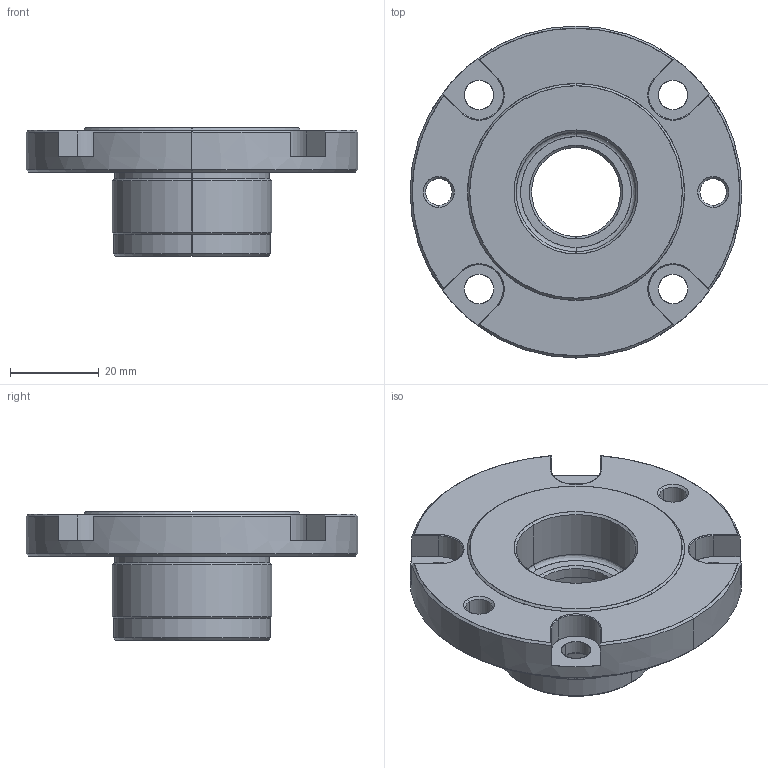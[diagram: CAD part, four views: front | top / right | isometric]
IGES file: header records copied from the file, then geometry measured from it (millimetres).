
Start section: SolidWorks IGES file using analytic representation for surfaces
Global section: file name: X:\11_SW2020-Inv2020\00_全2021-11新製品まで\a\AMWF50-BU-S\amwf50-bu-s.IGS; native system: SolidWorks 2020; preprocessor: SolidWorks 2020; author: ImaoCorp; date: 211021.163547; units: millimetre
Bounding box: 75 x 75 x 29 mm (x, y, z)
Surface area: 15375.3 mm2 (no closed solid volume)
Topology: 0 solids, 0 shells, 109 faces, 1685 edges, 1685 vertices
Faces by surface type: revolution 79, bspline 30
